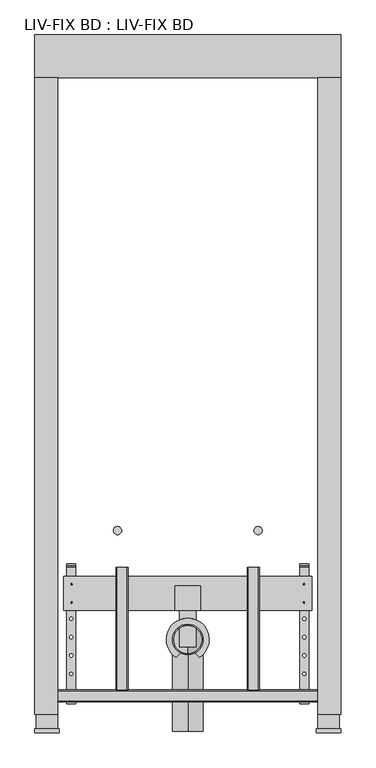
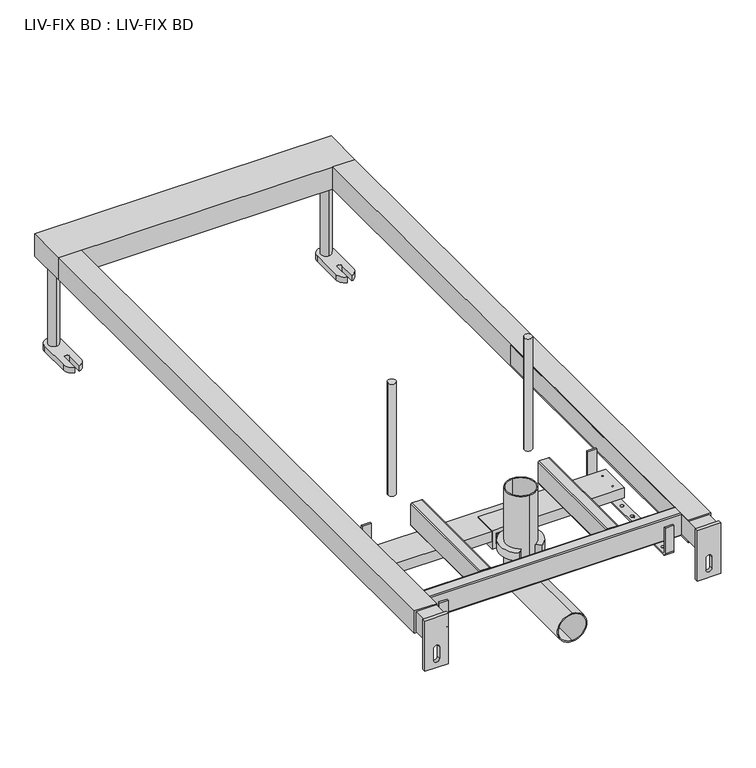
"""IFC4 building model written with IfcOpenShell, lengths in millimetres: flow terminal geometry, LIV-FIX BD : LIV-FIX BD."""

from ifc_helpers import new_model, si_unit, point, frame, frame_2d, origin, origin_with_axes, place, context, project, spatial, polyline, circle_curve, ellipse_curve, trimmed, segment, composite_curve, outline, extrude, source, transform, mapped, element, save
from ifc_brep_helpers import plane_surface, cylinder_surface, revolved_surface, advanced_brep


def liv_fix_bd_liv_fix_bd_2f14a79e(model_context):
    return source(origin(), model_context, "Body", "SolidModel", [
        advanced_brep(
        [(13.5, 139.9999345, 151.25), (-13.5, 139.9999345, 151.25), (-13.5, 139.9999345, 135.25), (13.5, 139.9999345, 135.25), (13.5, 239.9999345, 151.25), (13.5, 239.9999345, 135.25), (-13.5, 239.9999345, 135.25), (-13.5, 239.9999345, 151.25), (13.5, 184.3259317, 151.25), (13.5, 173.0636054, 151.25), (-13.5, 173.0152503, 151.25), (-13.5, 184.3259317, 151.25), (19.3630713, 122.8783068, 166.25), (-19.3630713, 122.8783068, 166.25), (-12.1911763, 130.217614, 166.25), (12.1158534, 130.1337624, 166.25), (19.3630713, 122.8783068, 151.25), (12.1158534, 130.1337624, 151.25), (-12.1911763, 130.217614, 151.25), (-19.3630713, 122.8783068, 151.25)],
        [
            (0, 1),
            (1, 2),
            (2, 3),
            (3, 0),
            (4, 5),
            (5, 6),
            (6, 7),
            (7, 4),
            (3, 5),
            (4, 8),
            (8, 9),
            (9, 0),
            (2, 6),
            (1, 10),
            (10, 11),
            (11, 7),
            (11, 8, circle_curve(frame((0.0, 152.0342919, 151.25), z_axis=(0.0, 0.0, -1.0), x_axis=(1.0, 0.0, 0.0)), 35.0)),
            (9, 10, circle_curve(frame((0.0376615, 152.0104236, 151.25), z_axis=(0.0, 0.0, 1.0), x_axis=(1.0, 0.0, 0.0)), 24.9894182)),
            (12, 13, circle_curve(frame((0.0, 152.0342919, 166.25), z_axis=(0.0, 0.0, 1.0), x_axis=(1.0, 0.0, 0.0)), 35.0)),
            (13, 14),
            (14, 15, circle_curve(frame((0.0376615, 152.0104236, 166.25), z_axis=(0.0, 0.0, -1.0), x_axis=(1.0, 0.0, 0.0)), 24.9894182)),
            (15, 12),
            (16, 17),
            (17, 9, circle_curve(frame((0.0376615, 152.0104236, 151.25), z_axis=(0.0, 0.0, 1.0), x_axis=(1.0, 0.0, 0.0)), 24.9894182)),
            (8, 16, circle_curve(frame((0.0, 152.0342919, 151.25), z_axis=(0.0, 0.0, -1.0), x_axis=(1.0, 0.0, 0.0)), 35.0)),
            (18, 19),
            (19, 11, circle_curve(frame((0.0, 152.0342919, 151.25), z_axis=(0.0, 0.0, -1.0), x_axis=(1.0, 0.0, 0.0)), 35.0)),
            (10, 18, circle_curve(frame((0.0376615, 152.0104236, 151.25), z_axis=(0.0, 0.0, 1.0), x_axis=(1.0, 0.0, 0.0)), 24.9894182)),
            (12, 16),
            (19, 13),
            (18, 14),
            (17, 15),
        ],
        [
            plane_surface(frame((13.5, 139.9999345, 151.25), z_axis=(0.0, -1.0, 0.0), x_axis=(0.0, 0.0, 1.0))),
            plane_surface(frame((13.5, 239.9999345, 151.25), z_axis=(0.0, 1.0, 0.0), x_axis=(0.0, 0.0, -1.0))),
            plane_surface(frame((13.5, 239.9999345, 151.25), z_axis=(1.0, 0.0, 0.0), x_axis=(0.0, -1.0, 0.0))),
            plane_surface(frame((13.5, 239.9999345, 135.25), z_axis=(0.0, 0.0, -1.0), x_axis=(0.0, -1.0, 0.0))),
            plane_surface(frame((-13.5, 239.9999345, 135.25), z_axis=(-1.0, 0.0, 0.0), x_axis=(0.0, -1.0, 0.0))),
            plane_surface(frame((-13.5, 239.9999345, 151.25), z_axis=(0.0, 0.0, 1.0), x_axis=(0.0, -1.0, 0.0))),
            plane_surface(frame((35.0, 152.0342919, 166.25), z_axis=(0.0, 0.0, 1.0), x_axis=(0.0, 1.0, 0.0))),
            plane_surface(frame((35.0, 152.0342919, 151.25), z_axis=(0.0, 0.0, -1.0), x_axis=(0.0, -1.0, 0.0))),
            cylinder_surface(frame((0.0, 152.0342919, 151.25), z_axis=(0.0, 0.0, 1.0), x_axis=(1.0, 0.0, 0.0)), 35.0),
            plane_surface(frame((-19.3630713, 122.8783068, 166.25), z_axis=(0.7152169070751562, -0.6989025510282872, 0.0), x_axis=(0.0, 0.0, -1.0))),
            revolved_surface(polyline([(25.027079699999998, 152.0104236, 151.25), (25.027079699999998, 152.0104236, 166.25)]), (0.0376615, 152.0104236, 151.25), (0.0, 0.0, -1.0)),
            plane_surface(frame((12.1158534, 130.1337624, 166.25), z_axis=(-0.707508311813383, -0.7067050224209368, 0.0), x_axis=(0.0, 0.0, -1.0))),
        ],
        [
            (0, [[1, 2, 3, 4]]),
            (1, [[5, 6, 7, 8]]),
            (2, [[-4, 9, -5, 10, 11, 12]]),
            (3, [[-3, 13, -6, -9]]),
            (4, [[-2, 14, 15, 16, -7, -13]]),
            (5, [[-8, -16, 17, -10]]),
            (5, [[-1, -12, 18, -14]]),
            (6, [[19, 20, 21, 22]]),
            (7, [[23, 24, -11, 25]]),
            (7, [[26, 27, -15, 28]]),
            (8, [[-19, 29, -25, -17, -27, 30]]),
            (9, [[-20, -30, -26, 31]]),
            (10, [[-21, -31, -28, -18, -24, 32]]),
            (11, [[-22, -32, -23, -29]]),
        ],
    ),
        advanced_brep(
        [(0.0, 2.0, 125.0), (0.0, 2.0, 75.0), (0.0, 2.0, 123.0), (0.0, 2.0, 77.0), (0.0, 127.0, 125.0), (0.0, 177.0, 75.0), (0.0, 129.0, 123.0), (0.0, 175.0, 77.0), (0.0, 127.0, 260.0), (0.0, 177.0, 260.0), (0.0, 129.0, 260.0), (0.0, 175.0, 260.0)],
        [
            (0, 1, circle_curve(frame((0.0, 2.0, 100.0), z_axis=(0.0, -1.0, 0.0), x_axis=(0.0, 0.0, -1.0)), 25.0)),
            (1, 0, circle_curve(frame((0.0, 2.0, 100.0), z_axis=(0.0, -1.0, 0.0), x_axis=(0.0, 0.0, -1.0)), 25.0)),
            (2, 3, circle_curve(frame((0.0, 2.0, 100.0), z_axis=(0.0, 1.0, 0.0), x_axis=(0.0, 0.0, -1.0)), 23.0)),
            (3, 2, circle_curve(frame((0.0, 2.0, 100.0), z_axis=(0.0, 1.0, 0.0), x_axis=(0.0, 0.0, -1.0)), 23.0)),
            (0, 4),
            (4, 5, ellipse_curve(frame((0.0, 152.0, 100.0), z_axis=(0.0, -0.7071067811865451, -0.7071067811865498), x_axis=(0.0, -0.70710678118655, 0.707106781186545)), 35.3553391, 25.0)),
            (5, 1),
            (5, 4, ellipse_curve(frame((0.0, 152.0, 100.0), z_axis=(0.0, -0.7071067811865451, -0.7071067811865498), x_axis=(0.0, -0.70710678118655, 0.707106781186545)), 35.3553391, 25.0)),
            (2, 6),
            (6, 7, ellipse_curve(frame((0.0, 152.0, 100.0), z_axis=(0.0, 0.7071067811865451, 0.7071067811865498), x_axis=(0.0, 0.70710678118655, -0.707106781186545)), 32.5269119, 23.0)),
            (7, 3),
            (7, 6, ellipse_curve(frame((0.0, 152.0, 100.0), z_axis=(0.0, 0.7071067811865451, 0.7071067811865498), x_axis=(0.0, 0.70710678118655, -0.707106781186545)), 32.5269119, 23.0)),
            (8, 9, circle_curve(frame((0.0, 152.0, 260.0), z_axis=(0.0, 0.0, 1.0), x_axis=(0.0, 1.0, 0.0)), 25.0)),
            (9, 8, circle_curve(frame((0.0, 152.0, 260.0), z_axis=(0.0, 0.0, 1.0), x_axis=(0.0, 1.0, 0.0)), 25.0)),
            (10, 11, circle_curve(frame((0.0, 152.0, 260.0), z_axis=(0.0, 0.0, -1.0), x_axis=(0.0, 1.0, 0.0)), 23.0)),
            (11, 10, circle_curve(frame((0.0, 152.0, 260.0), z_axis=(0.0, 0.0, -1.0), x_axis=(0.0, 1.0, 0.0)), 23.0)),
            (4, 8),
            (9, 5),
            (6, 10),
            (11, 7),
        ],
        [
            plane_surface(frame((0.0, 2.0, 100.0), z_axis=(0.0, -1.0, 0.0), x_axis=(-1.0, 0.0, 0.0))),
            cylinder_surface(frame((0.0, 2.0, 100.0), z_axis=(0.0, -1.0, 0.0), x_axis=(0.0, 0.0, -1.0)), 25.0),
            revolved_surface(polyline([(0.0, 175.0, 77.0), (0.0, 2.0, 77.0)]), (0.0, 2.0, 100.0), (0.0, 1.0, 0.0)),
            plane_surface(frame((0.0, 152.0, 260.0), z_axis=(0.0, 0.0, 1.0), x_axis=(-1.0, 0.0, 0.0))),
            cylinder_surface(frame((0.0, 152.0, 100.0), z_axis=(0.0, 0.0, -1.0), x_axis=(0.0, 1.0, 0.0)), 25.0),
            revolved_surface(polyline([(0.0, 175.0, 260.0), (0.0, 175.0, 77.0)]), (0.0, 152.0, 100.0), (0.0, 0.0, 1.0)),
        ],
        [
            (0, [[1, 2], [3, 4]]),
            (1, [[-1, 5, 6, 7]]),
            (1, [[-2, -7, 8, -5]]),
            (2, [[-3, 9, 10, 11]]),
            (2, [[-4, -11, 12, -9]]),
            (3, [[13, 14], [15, 16]]),
            (4, [[-6, 17, -14, 18]]),
            (4, [[-8, -18, -13, -17]]),
            (5, [[-10, 19, -16, 20]]),
            (5, [[-12, -20, -15, -19]]),
        ],
    ),
        extrude(outline(polyline([(160.0, -20.75), (126.5, -20.75), (126.5, 20.75), (160.0, 20.75), (160.0, -20.75)]), holes=[polyline([(152.5, -13.75), (152.5, 13.75), (134.0, 13.75), (134.0, -13.75), (152.5, -13.75)])]), frame((0.0, 199.9999345, 0.0), z_axis=(0.0, 1.0, 0.0), x_axis=(0.0, 0.0, 1.0)), (0.0, 0.0, 1.0), 40.0),
        extrude(outline(composite_curve([segment(trimmed(circle_curve(frame_2d((115.0, 330.0)), 6.65), [point((121.65, 330.0))], [point((108.35, 330.0))], False, "CARTESIAN"), True, "CONTINUOUS"), segment(trimmed(circle_curve(frame_2d((115.0, 330.0)), 6.65), [point((108.35, 330.0))], [point((121.65, 330.0))], False, "CARTESIAN"), True, "CONTINUOUS")], self_intersect=False)), frame((0.0, 0.0, 180.0), z_axis=(0.0, 0.0, 1.0), x_axis=(1.0, 0.0, 0.0)), (0.0, 0.0, 1.0), 200.0),
        extrude(outline(composite_curve([segment(trimmed(circle_curve(frame_2d((-115.0, 330.0)), 6.65), [point((-108.35, 330.0))], [point((-121.65, 330.0))], False, "CARTESIAN"), True, "CONTINUOUS"), segment(trimmed(circle_curve(frame_2d((-115.0, 330.0)), 6.65), [point((-121.65, 330.0))], [point((-108.35, 330.0))], False, "CARTESIAN"), True, "CONTINUOUS")], self_intersect=False)), frame((0.0, 0.0, 180.0), z_axis=(0.0, 0.0, 1.0), x_axis=(1.0, 0.0, 0.0)), (0.0, 0.0, 1.0), 200.0),
        extrude(outline(composite_curve([segment(trimmed(circle_curve(frame_2d((-230.0, 1120.0)), 8.75), [point((-230.0, 1111.25))], [point((-230.0, 1128.75))], False, "CARTESIAN"), True, "CONTINUOUS"), segment(trimmed(circle_curve(frame_2d((-230.0, 1120.0)), 8.75), [point((-230.0, 1128.75))], [point((-230.0, 1111.25))], False, "CARTESIAN"), True, "CONTINUOUS")], self_intersect=False)), frame((0.0, 0.0, 10.0), z_axis=(0.0, 0.0, 1.0), x_axis=(1.0, 0.0, 0.0)), (0.0, 0.0, 1.0), 150.0),
        extrude(outline(composite_curve([segment(trimmed(circle_curve(frame_2d((230.0, 1120.0)), 8.75), [point((230.0, 1111.25))], [point((230.0, 1128.75))], False, "CARTESIAN"), True, "CONTINUOUS"), segment(trimmed(circle_curve(frame_2d((230.0, 1120.0)), 8.75), [point((230.0, 1128.75))], [point((230.0, 1111.25))], False, "CARTESIAN"), True, "CONTINUOUS")], self_intersect=False)), frame((0.0, 0.0, 10.0), z_axis=(0.0, 0.0, 1.0), x_axis=(1.0, 0.0, 0.0)), (0.0, 0.0, 1.0), 150.0),
        extrude(outline(composite_curve([segment(trimmed(circle_curve(frame_2d((-230.0, 1120.0)), 15.0), [point((-245.0, 1120.0))], [point((-215.0, 1120.0))], False, "CARTESIAN"), True, "CONTINUOUS"), segment(polyline([(-215.0, 1120.0), (-215.0, 1066.0)]), True, "CONTINUOUS"), segment(trimmed(circle_curve(frame_2d((-230.0, 1066.0)), 15.0), [point((-215.0, 1066.0))], [point((-226.0, 1051.5431677))], False, "CARTESIAN"), True, "CONTINUOUS"), segment(polyline([(-226.0, 1051.5431677), (-226.0, 1080.4568323)]), True, "CONTINUOUS"), segment(trimmed(circle_curve(frame_2d((-230.0, 1080.4568323)), 4.0), [point((-226.0, 1080.4568323))], [point((-234.0, 1080.4568323))], True, "CARTESIAN"), True, "CONTINUOUS"), segment(polyline([(-234.0, 1080.4568323), (-234.0, 1051.5431677)]), True, "CONTINUOUS"), segment(trimmed(circle_curve(frame_2d((-230.0, 1066.0)), 15.0), [point((-234.0, 1051.5431677))], [point((-245.0, 1066.0))], False, "CARTESIAN"), True, "CONTINUOUS"), segment(polyline([(-245.0, 1066.0), (-245.0, 1120.0)]), True, "CONTINUOUS")], self_intersect=False)), origin_with_axes(), (0.0, 0.0, 1.0), 10.0),
        extrude(outline(composite_curve([segment(polyline([(245.0, 1120.0), (245.0, 1066.0)]), True, "CONTINUOUS"), segment(trimmed(circle_curve(frame_2d((230.0, 1066.0)), 15.0), [point((245.0, 1066.0))], [point((234.0, 1051.5431677))], False, "CARTESIAN"), True, "CONTINUOUS"), segment(polyline([(234.0, 1051.5431677), (234.0, 1080.4568323)]), True, "CONTINUOUS"), segment(trimmed(circle_curve(frame_2d((230.0, 1080.4568323)), 4.0), [point((234.0, 1080.4568323))], [point((226.0, 1080.4568323))], True, "CARTESIAN"), True, "CONTINUOUS"), segment(polyline([(226.0, 1080.4568323), (226.0, 1051.5431677)]), True, "CONTINUOUS"), segment(trimmed(circle_curve(frame_2d((230.0, 1066.0)), 15.0), [point((226.0, 1051.5431677))], [point((215.0, 1066.0))], False, "CARTESIAN"), True, "CONTINUOUS"), segment(polyline([(215.0, 1066.0), (215.0, 1120.0)]), True, "CONTINUOUS"), segment(trimmed(circle_curve(frame_2d((230.0, 1120.0)), 15.0), [point((215.0, 1120.0))], [point((245.0, 1120.0))], False, "CARTESIAN"), True, "CONTINUOUS")], self_intersect=False)), origin_with_axes(), (0.0, 0.0, 1.0), 10.0),
        extrude(outline(polyline([(-247.5, 549.0), (-212.5, 549.0), (-212.5, 6.0), (-247.5, 6.0), (-247.5, 549.0)])), frame((0.0, 0.0, 162.5), z_axis=(0.0, 0.0, 1.0), x_axis=(1.0, 0.0, 0.0)), (0.0, 0.0, 1.0), 35.0),
        extrude(outline(polyline([(212.4841074, 549.0), (247.4841074, 549.0), (247.4841074, 6.0), (212.4841074, 6.0), (212.4841074, 549.0)])), frame((0.0, 0.0, 162.5), z_axis=(0.0, 0.0, 1.0), x_axis=(1.0, 0.0, 0.0)), (0.0, 0.0, 1.0), 35.0),
        extrude(outline(polyline([(200.0, 250.0), (200.0, 210.0), (110.0, 210.0), (110.0, 250.0), (200.0, 250.0)]), holes=[composite_curve([segment(trimmed(circle_curve(frame_2d((145.0, 230.0)), 5.0), [point((145.0, 225.0))], [point((145.0, 235.0))], True, "CARTESIAN"), True, "CONTINUOUS"), segment(polyline([(145.0, 235.0), (125.0, 235.0)]), True, "CONTINUOUS"), segment(trimmed(circle_curve(frame_2d((125.0, 230.0)), 5.0), [point((125.0, 235.0))], [point((125.0, 225.0))], True, "CARTESIAN"), True, "CONTINUOUS"), segment(polyline([(125.0, 225.0), (145.0, 225.0)]), True, "CONTINUOUS")], self_intersect=False)]), frame((0.0, 0.0, 0.0), z_axis=(0.0, 1.0, 0.0), x_axis=(0.0, 0.0, 1.0)), (0.0, 0.0, 1.0), 6.0),
        extrude(outline(polyline([(200.0, -210.0), (200.0, -250.0), (110.0, -250.0), (110.0, -210.0), (200.0, -210.0)]), holes=[composite_curve([segment(trimmed(circle_curve(frame_2d((145.0, -230.0)), 5.0), [point((145.0, -235.0))], [point((145.0, -225.0))], True, "CARTESIAN"), True, "CONTINUOUS"), segment(polyline([(145.0, -225.0), (125.0, -225.0)]), True, "CONTINUOUS"), segment(trimmed(circle_curve(frame_2d((125.0, -230.0)), 5.0), [point((125.0, -225.0))], [point((125.0, -235.0))], True, "CARTESIAN"), True, "CONTINUOUS"), segment(polyline([(125.0, -235.0), (145.0, -235.0)]), True, "CONTINUOUS")], self_intersect=False)]), frame((0.0, 0.0, 0.0), z_axis=(0.0, 1.0, 0.0), x_axis=(0.0, 0.0, 1.0)), (0.0, 0.0, 1.0), 6.0),
        extrude(outline(polyline([(-212.5, 30.0000173), (-250.0, 30.0000173), (-250.0, 1070.0000173), (-212.5, 1070.0000173), (-212.5, 30.0000173)])), frame((0.0, 0.0, 160.0), z_axis=(0.0, 0.0, 1.0), x_axis=(1.0, 0.0, 0.0)), (0.0, 0.0, 1.0), 40.0),
        extrude(outline(polyline([(250.0, 30.0000173), (212.4841074, 30.0000173), (212.4841074, 1070.0000173), (250.0, 1070.0000173), (250.0, 30.0000173)])), frame((0.0, 0.0, 160.0), z_axis=(0.0, 0.0, 1.0), x_axis=(1.0, 0.0, 0.0)), (0.0, 0.0, 1.0), 40.0),
        extrude(outline(polyline([(250.0, 1140.0), (250.0, 1070.0000173), (-250.0, 1070.0000173), (-250.0, 1140.0), (250.0, 1140.0)])), frame((0.0, 0.0, 160.0), z_axis=(0.0, 0.0, 1.0), x_axis=(1.0, 0.0, 0.0)), (0.0, 0.0, 1.0), 40.0),
        advanced_brep(
        [(187.7485577, 126.0000306, 135.5000011), (187.7485577, 126.0000306, 138.4999997), (193.2514423, 126.0000306, 138.4999997), (193.2514423, 126.0000306, 135.5000011), (187.7485577, 155.9985832, 135.5000011), (187.7485577, 155.9985832, 138.4999997), (193.2514423, 155.9985832, 138.4999997), (193.2514423, 155.9985832, 135.5000011), (187.7485577, 185.9985871, 135.5000011), (187.7485577, 185.9985871, 138.4999997), (193.2514423, 185.9985871, 138.4999997), (193.2514423, 185.9985871, 135.5000011), (187.7485577, 95.9985755, 135.5000011), (187.7485577, 95.9985755, 138.4999997), (193.2514423, 95.9985755, 138.4999997), (193.2514423, 95.9985755, 135.5000011), (187.7485577, 65.9971204, 135.5000011), (187.7485577, 65.9971204, 138.4999997), (193.2514423, 65.9971204, 138.4999997), (193.2514423, 65.9971204, 135.5000011), (187.7485577, 215.9971397, 135.5000011), (187.7485577, 215.9971397, 138.4999997), (193.2514423, 215.9971397, 138.4999997), (193.2514423, 215.9971397, 135.5000011), (187.7485577, 245.9971436, 135.5000011), (187.7485577, 245.9971436, 138.4999997), (193.2514423, 245.9971436, 138.4999997), (193.2514423, 245.9971436, 135.5000011), (197.9999964, 51.5000313, 135.5000011), (197.9999964, 271.5000197, 135.5000011), (197.9999964, 276.0000175, 139.9999989), (197.9999964, 276.0000175, 185.5000003), (197.9999964, 273.000019, 185.5000003), (197.9999964, 273.000019, 140.9999924), (197.9999964, 270.5000262, 138.4999997), (197.9999964, 52.5000247, 138.4999997), (197.9999964, 50.000032, 140.9999924), (197.9999964, 50.000032, 185.5000003), (197.9999964, 47.0000334, 185.5000003), (197.9999964, 47.0000334, 139.9999989), (183.0000036, 51.5000313, 135.5000011), (183.0000036, 271.5000197, 135.5000011), (183.0000036, 276.0000175, 139.9999989), (183.0000036, 276.0000175, 185.5000003), (183.0000036, 273.000019, 185.5000003), (183.0000036, 273.000019, 140.9999924), (183.0000036, 270.5000262, 138.4999997), (183.0000036, 52.5000247, 138.4999997), (183.0000036, 50.000032, 140.9999924), (183.0000036, 50.000032, 185.5000003), (183.0000036, 47.0000334, 185.5000003), (183.0000036, 47.0000334, 139.9999989)],
        [
            (0, 1),
            (1, 2, circle_curve(frame((190.5, 126.0000306, 138.4999997), z_axis=(0.0, 0.0, 1.0), x_axis=(1.0, 0.0, 0.0)), 2.7514423)),
            (2, 3),
            (3, 0, circle_curve(frame((190.5, 126.0000306, 135.5000011), z_axis=(0.0, 0.0, -1.0), x_axis=(1.0, 0.0, 0.0)), 2.7514423)),
            (0, 3, circle_curve(frame((190.5, 126.0000306, 135.5000011), z_axis=(0.0, 0.0, -1.0), x_axis=(1.0, 0.0, 0.0)), 2.7514423)),
            (2, 1, circle_curve(frame((190.5, 126.0000306, 138.4999997), z_axis=(0.0, 0.0, 1.0), x_axis=(1.0, 0.0, 0.0)), 2.7514423)),
            (4, 5),
            (5, 6, circle_curve(frame((190.5, 155.9985832, 138.4999997), z_axis=(0.0, 0.0, 1.0), x_axis=(1.0, 0.0, 0.0)), 2.7514423)),
            (6, 7),
            (7, 4, circle_curve(frame((190.5, 155.9985832, 135.5000011), z_axis=(0.0, 0.0, -1.0), x_axis=(1.0, 0.0, 0.0)), 2.7514423)),
            (4, 7, circle_curve(frame((190.5, 155.9985832, 135.5000011), z_axis=(0.0, 0.0, -1.0), x_axis=(1.0, 0.0, 0.0)), 2.7514423)),
            (6, 5, circle_curve(frame((190.5, 155.9985832, 138.4999997), z_axis=(0.0, 0.0, 1.0), x_axis=(1.0, 0.0, 0.0)), 2.7514423)),
            (8, 9),
            (9, 10, circle_curve(frame((190.5, 185.9985871, 138.4999997), z_axis=(0.0, 0.0, 1.0), x_axis=(1.0, 0.0, 0.0)), 2.7514423)),
            (10, 11),
            (11, 8, circle_curve(frame((190.5, 185.9985871, 135.5000011), z_axis=(0.0, 0.0, -1.0), x_axis=(1.0, 0.0, 0.0)), 2.7514423)),
            (8, 11, circle_curve(frame((190.5, 185.9985871, 135.5000011), z_axis=(0.0, 0.0, -1.0), x_axis=(1.0, 0.0, 0.0)), 2.7514423)),
            (10, 9, circle_curve(frame((190.5, 185.9985871, 138.4999997), z_axis=(0.0, 0.0, 1.0), x_axis=(1.0, 0.0, 0.0)), 2.7514423)),
            (12, 13),
            (13, 14, circle_curve(frame((190.5, 95.9985755, 138.4999997), z_axis=(0.0, 0.0, 1.0), x_axis=(1.0, 0.0, 0.0)), 2.7514423)),
            (14, 15),
            (15, 12, circle_curve(frame((190.5, 95.9985755, 135.5000011), z_axis=(0.0, 0.0, -1.0), x_axis=(1.0, 0.0, 0.0)), 2.7514423)),
            (12, 15, circle_curve(frame((190.5, 95.9985755, 135.5000011), z_axis=(0.0, 0.0, -1.0), x_axis=(1.0, 0.0, 0.0)), 2.7514423)),
            (14, 13, circle_curve(frame((190.5, 95.9985755, 138.4999997), z_axis=(0.0, 0.0, 1.0), x_axis=(1.0, 0.0, 0.0)), 2.7514423)),
            (16, 17),
            (17, 18, circle_curve(frame((190.5, 65.9971204, 138.4999997), z_axis=(0.0, 0.0, 1.0), x_axis=(1.0, 0.0, 0.0)), 2.7514423)),
            (18, 19),
            (19, 16, circle_curve(frame((190.5, 65.9971204, 135.5000011), z_axis=(0.0, 0.0, -1.0), x_axis=(1.0, 0.0, 0.0)), 2.7514423)),
            (16, 19, circle_curve(frame((190.5, 65.9971204, 135.5000011), z_axis=(0.0, 0.0, -1.0), x_axis=(1.0, 0.0, 0.0)), 2.7514423)),
            (18, 17, circle_curve(frame((190.5, 65.9971204, 138.4999997), z_axis=(0.0, 0.0, 1.0), x_axis=(1.0, 0.0, 0.0)), 2.7514423)),
            (20, 21),
            (21, 22, circle_curve(frame((190.5, 215.9971397, 138.4999997), z_axis=(0.0, 0.0, 1.0), x_axis=(1.0, 0.0, 0.0)), 2.7514423)),
            (22, 23),
            (23, 20, circle_curve(frame((190.5, 215.9971397, 135.5000011), z_axis=(0.0, 0.0, -1.0), x_axis=(1.0, 0.0, 0.0)), 2.7514423)),
            (20, 23, circle_curve(frame((190.5, 215.9971397, 135.5000011), z_axis=(0.0, 0.0, -1.0), x_axis=(1.0, 0.0, 0.0)), 2.7514423)),
            (22, 21, circle_curve(frame((190.5, 215.9971397, 138.4999997), z_axis=(0.0, 0.0, 1.0), x_axis=(1.0, 0.0, 0.0)), 2.7514423)),
            (24, 25),
            (25, 26, circle_curve(frame((190.5, 245.9971436, 138.4999997), z_axis=(0.0, 0.0, 1.0), x_axis=(1.0, 0.0, 0.0)), 2.7514423)),
            (26, 27),
            (27, 24, circle_curve(frame((190.5, 245.9971436, 135.5000011), z_axis=(0.0, 0.0, -1.0), x_axis=(1.0, 0.0, 0.0)), 2.7514423)),
            (24, 27, circle_curve(frame((190.5, 245.9971436, 135.5000011), z_axis=(0.0, 0.0, -1.0), x_axis=(1.0, 0.0, 0.0)), 2.7514423)),
            (26, 25, circle_curve(frame((190.5, 245.9971436, 138.4999997), z_axis=(0.0, 0.0, 1.0), x_axis=(1.0, 0.0, 0.0)), 2.7514423)),
            (28, 29),
            (29, 30, circle_curve(frame((197.9999964, 271.5000197, 139.9999989), z_axis=(1.0, 0.0, 0.0), x_axis=(0.0, 1.0, 0.0)), 4.4999979)),
            (30, 31),
            (31, 32),
            (32, 33),
            (33, 34, circle_curve(frame((197.9999964, 270.5000262, 140.9999924), z_axis=(-1.0, 0.0, 0.0), x_axis=(0.0, 1.0, 0.0)), 2.4999928)),
            (34, 35),
            (35, 36, circle_curve(frame((197.9999964, 52.5000247, 140.9999924), z_axis=(-1.0, 0.0, 0.0), x_axis=(0.0, 1.0, 0.0)), 2.4999928)),
            (36, 37),
            (37, 38),
            (38, 39),
            (39, 28, circle_curve(frame((197.9999964, 51.5000313, 139.9999989), z_axis=(1.0, 0.0, 0.0), x_axis=(0.0, 1.0, 0.0)), 4.4999979)),
            (28, 40),
            (40, 41),
            (41, 29),
            (41, 42, circle_curve(frame((183.0000036, 271.5000197, 139.9999989), z_axis=(1.0, 0.0, 0.0), x_axis=(0.0, 1.0, 0.0)), 4.4999979)),
            (42, 30),
            (42, 43),
            (43, 31),
            (43, 44),
            (44, 32),
            (44, 45),
            (45, 33),
            (45, 46, circle_curve(frame((183.0000036, 270.5000262, 140.9999924), z_axis=(-1.0, 0.0, 0.0), x_axis=(0.0, 1.0, 0.0)), 2.4999928)),
            (46, 34),
            (46, 47),
            (47, 35),
            (47, 48, circle_curve(frame((183.0000036, 52.5000247, 140.9999924), z_axis=(-1.0, 0.0, 0.0), x_axis=(0.0, 1.0, 0.0)), 2.4999928)),
            (48, 36),
            (48, 49),
            (49, 37),
            (49, 50),
            (50, 38),
            (50, 51),
            (51, 39),
            (51, 40, circle_curve(frame((183.0000036, 51.5000313, 139.9999989), z_axis=(1.0, 0.0, 0.0), x_axis=(0.0, 1.0, 0.0)), 4.4999979)),
        ],
        [
            revolved_surface(polyline([(193.2514423, 126.0000306, 138.4999997), (193.2514423, 126.0000306, 135.5000011)]), (190.5, 126.0000306, 135.5000011), (0.0, 0.0, 1.0)),
            revolved_surface(polyline([(193.2514423, 155.9985832, 138.4999997), (193.2514423, 155.9985832, 135.5000011)]), (190.5, 155.9985832, 0.0), (0.0, 0.0, 1.0)),
            revolved_surface(polyline([(193.2514423, 185.9985871, 138.4999997), (193.2514423, 185.9985871, 135.5000011)]), (190.5, 185.9985871, 0.0), (0.0, 0.0, 1.0)),
            revolved_surface(polyline([(193.2514423, 95.9985755, 138.4999997), (193.2514423, 95.9985755, 135.5000011)]), (190.5, 95.9985755, 0.0), (0.0, 0.0, 1.0)),
            revolved_surface(polyline([(193.2514423, 65.9971204, 138.4999997), (193.2514423, 65.9971204, 135.5000011)]), (190.5, 65.9971204, 0.0), (0.0, 0.0, 1.0)),
            revolved_surface(polyline([(193.2514423, 215.9971397, 138.4999997), (193.2514423, 215.9971397, 135.5000011)]), (190.5, 215.9971397, 0.0), (0.0, 0.0, 1.0)),
            revolved_surface(polyline([(193.2514423, 245.9971436, 138.4999997), (193.2514423, 245.9971436, 135.5000011)]), (190.5, 245.9971436, 0.0), (0.0, 0.0, 1.0)),
            plane_surface(frame((197.9999964, 271.5000197, 135.5000011), z_axis=(1.0, 0.0, 0.0), x_axis=(0.0, 1.0, 0.0))),
            plane_surface(frame((197.9999964, 51.5000313, 135.5000011), z_axis=(0.0, 0.0, -1.0), x_axis=(-1.0, 0.0, 0.0))),
            cylinder_surface(frame((-197.9999964, 271.5000197, 139.9999989), z_axis=(1.0, 0.0, 0.0), x_axis=(0.0, 1.0, 0.0)), 4.4999979),
            plane_surface(frame((197.9999964, 276.0000175, 139.9999989), z_axis=(0.0, 1.0, 0.0), x_axis=(-1.0, 0.0, 0.0))),
            plane_surface(frame((197.9999964, 276.0000175, 185.5000003), z_axis=(0.0, 0.0, 1.0), x_axis=(-1.0, 0.0, 0.0))),
            plane_surface(frame((197.9999964, 273.000019, 185.5000003), z_axis=(0.0, -1.0, 0.0), x_axis=(-1.0, 0.0, 0.0))),
            revolved_surface(polyline([(183.0000036, 273.00001899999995, 140.9999924), (197.9999964, 273.00001899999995, 140.9999924)]), (-197.9999964, 270.5000262, 140.9999924), (-1.0, 0.0, 0.0)),
            plane_surface(frame((197.9999964, 270.5000262, 138.4999997), z_axis=(0.0, 0.0, 1.0), x_axis=(-1.0, 0.0, 0.0))),
            revolved_surface(polyline([(183.0000036, 55.0000175, 140.9999924), (197.9999964, 55.0000175, 140.9999924)]), (-197.9999964, 52.5000247, 140.9999924), (-1.0, 0.0, 0.0)),
            plane_surface(frame((197.9999964, 50.000032, 140.9999924), z_axis=(0.0, 1.0, 0.0), x_axis=(-1.0, 0.0, 0.0))),
            plane_surface(frame((197.9999964, 50.000032, 185.5000003), z_axis=(0.0, 0.0, 1.0), x_axis=(-1.0, 0.0, 0.0))),
            plane_surface(frame((197.9999964, 47.0000334, 185.5000003), z_axis=(0.0, -1.0, 0.0), x_axis=(-1.0, 0.0, 0.0))),
            cylinder_surface(frame((-197.9999964, 51.5000313, 139.9999989), z_axis=(1.0, 0.0, 0.0), x_axis=(0.0, 1.0, 0.0)), 4.4999979),
            plane_surface(frame((183.0000036, 10.000032, 275.5639354), z_axis=(-1.0, 0.0, 0.0), x_axis=(0.0, 0.0, -1.0))),
        ],
        [
            (0, [[1, 2, 3, 4]]),
            (0, [[-1, 5, -3, 6]]),
            (1, [[7, 8, 9, 10]]),
            (1, [[-7, 11, -9, 12]]),
            (2, [[13, 14, 15, 16]]),
            (2, [[-13, 17, -15, 18]]),
            (3, [[19, 20, 21, 22]]),
            (3, [[-19, 23, -21, 24]]),
            (4, [[25, 26, 27, 28]]),
            (4, [[-25, 29, -27, 30]]),
            (5, [[31, 32, 33, 34]]),
            (5, [[-31, 35, -33, 36]]),
            (6, [[37, 38, 39, 40]]),
            (6, [[-37, 41, -39, 42]]),
            (7, [[43, 44, 45, 46, 47, 48, 49, 50, 51, 52, 53, 54]]),
            (8, [[-43, 55, 56, 57], [-4, -5], [-10, -11], [-16, -17], [-22, -23], [-28, -29], [-34, -35], [-40, -41]]),
            (9, [[-44, -57, 58, 59]]),
            (10, [[-45, -59, 60, 61]]),
            (11, [[-46, -61, 62, 63]]),
            (12, [[-47, -63, 64, 65]]),
            (13, [[-48, -65, 66, 67]]),
            (14, [[-49, -67, 68, 69], [-2, -6], [-8, -12], [-14, -18], [-20, -24], [-26, -30], [-32, -36], [-38, -42]]),
            (15, [[-50, -69, 70, 71]]),
            (16, [[-51, -71, 72, 73]]),
            (17, [[-52, -73, 74, 75]]),
            (18, [[-53, -75, 76, 77]]),
            (19, [[-54, -77, 78, -55]]),
            (20, [[-56, -78, -76, -74, -72, -70, -68, -66, -64, -62, -60, -58]]),
        ],
    ),
        advanced_brep(
        [(-193.2514423, 126.0000306, 135.5000011), (-193.2514423, 126.0000306, 138.4999997), (-187.7485577, 126.0000306, 138.4999997), (-187.7485577, 126.0000306, 135.5000011), (-193.2514423, 155.9985832, 135.5000011), (-193.2514423, 155.9985832, 138.4999997), (-187.7485577, 155.9985832, 138.4999997), (-187.7485577, 155.9985832, 135.5000011), (-193.2514423, 185.9985871, 135.5000011), (-193.2514423, 185.9985871, 138.4999997), (-187.7485577, 185.9985871, 138.4999997), (-187.7485577, 185.9985871, 135.5000011), (-193.2514423, 95.9985755, 135.5000011), (-193.2514423, 95.9985755, 138.4999997), (-187.7485577, 95.9985755, 138.4999997), (-187.7485577, 95.9985755, 135.5000011), (-193.2514423, 65.9971204, 135.5000011), (-193.2514423, 65.9971204, 138.4999997), (-187.7485577, 65.9971204, 138.4999997), (-187.7485577, 65.9971204, 135.5000011), (-193.2514423, 215.9971397, 135.5000011), (-193.2514423, 215.9971397, 138.4999997), (-187.7485577, 215.9971397, 138.4999997), (-187.7485577, 215.9971397, 135.5000011), (-193.2514423, 245.9971436, 135.5000011), (-193.2514423, 245.9971436, 138.4999997), (-187.7485577, 245.9971436, 138.4999997), (-187.7485577, 245.9971436, 135.5000011), (-197.9999964, 51.5000313, 135.5000011), (-197.9999964, 47.0000334, 139.9999989), (-197.9999964, 47.0000334, 185.5000003), (-197.9999964, 50.000032, 185.5000003), (-197.9999964, 50.000032, 140.9999924), (-197.9999964, 52.5000247, 138.4999997), (-197.9999964, 270.5000262, 138.4999997), (-197.9999964, 273.000019, 140.9999924), (-197.9999964, 273.000019, 185.5000003), (-197.9999964, 276.0000175, 185.5000003), (-197.9999964, 276.0000175, 139.9999989), (-197.9999964, 271.5000197, 135.5000011), (-183.0000036, 271.5000197, 135.5000011), (-183.0000036, 51.5000313, 135.5000011), (-183.0000036, 276.0000175, 139.9999989), (-183.0000036, 276.0000175, 185.5000003), (-183.0000036, 273.000019, 185.5000003), (-183.0000036, 273.000019, 140.9999924), (-183.0000036, 270.5000262, 138.4999997), (-183.0000036, 52.5000247, 138.4999997), (-183.0000036, 50.000032, 140.9999924), (-183.0000036, 50.000032, 185.5000003), (-183.0000036, 47.0000334, 185.5000003), (-183.0000036, 47.0000334, 139.9999989)],
        [
            (0, 1),
            (1, 2, circle_curve(frame((-190.5, 126.0000306, 138.4999997), z_axis=(0.0, 0.0, 1.0), x_axis=(1.0, 0.0, 0.0)), 2.7514423)),
            (2, 3),
            (3, 0, circle_curve(frame((-190.5, 126.0000306, 135.5000011), z_axis=(0.0, 0.0, -1.0), x_axis=(1.0, 0.0, 0.0)), 2.7514423)),
            (0, 3, circle_curve(frame((-190.5, 126.0000306, 135.5000011), z_axis=(0.0, 0.0, -1.0), x_axis=(1.0, 0.0, 0.0)), 2.7514423)),
            (2, 1, circle_curve(frame((-190.5, 126.0000306, 138.4999997), z_axis=(0.0, 0.0, 1.0), x_axis=(1.0, 0.0, 0.0)), 2.7514423)),
            (4, 5),
            (5, 6, circle_curve(frame((-190.5, 155.9985832, 138.4999997), z_axis=(0.0, 0.0, 1.0), x_axis=(1.0, 0.0, 0.0)), 2.7514423)),
            (6, 7),
            (7, 4, circle_curve(frame((-190.5, 155.9985832, 135.5000011), z_axis=(0.0, 0.0, -1.0), x_axis=(1.0, 0.0, 0.0)), 2.7514423)),
            (4, 7, circle_curve(frame((-190.5, 155.9985832, 135.5000011), z_axis=(0.0, 0.0, -1.0), x_axis=(1.0, 0.0, 0.0)), 2.7514423)),
            (6, 5, circle_curve(frame((-190.5, 155.9985832, 138.4999997), z_axis=(0.0, 0.0, 1.0), x_axis=(1.0, 0.0, 0.0)), 2.7514423)),
            (8, 9),
            (9, 10, circle_curve(frame((-190.5, 185.9985871, 138.4999997), z_axis=(0.0, 0.0, 1.0), x_axis=(1.0, 0.0, 0.0)), 2.7514423)),
            (10, 11),
            (11, 8, circle_curve(frame((-190.5, 185.9985871, 135.5000011), z_axis=(0.0, 0.0, -1.0), x_axis=(1.0, 0.0, 0.0)), 2.7514423)),
            (8, 11, circle_curve(frame((-190.5, 185.9985871, 135.5000011), z_axis=(0.0, 0.0, -1.0), x_axis=(1.0, 0.0, 0.0)), 2.7514423)),
            (10, 9, circle_curve(frame((-190.5, 185.9985871, 138.4999997), z_axis=(0.0, 0.0, 1.0), x_axis=(1.0, 0.0, 0.0)), 2.7514423)),
            (12, 13),
            (13, 14, circle_curve(frame((-190.5, 95.9985755, 138.4999997), z_axis=(0.0, 0.0, 1.0), x_axis=(1.0, 0.0, 0.0)), 2.7514423)),
            (14, 15),
            (15, 12, circle_curve(frame((-190.5, 95.9985755, 135.5000011), z_axis=(0.0, 0.0, -1.0), x_axis=(1.0, 0.0, 0.0)), 2.7514423)),
            (12, 15, circle_curve(frame((-190.5, 95.9985755, 135.5000011), z_axis=(0.0, 0.0, -1.0), x_axis=(1.0, 0.0, 0.0)), 2.7514423)),
            (14, 13, circle_curve(frame((-190.5, 95.9985755, 138.4999997), z_axis=(0.0, 0.0, 1.0), x_axis=(1.0, 0.0, 0.0)), 2.7514423)),
            (16, 17),
            (17, 18, circle_curve(frame((-190.5, 65.9971204, 138.4999997), z_axis=(0.0, 0.0, 1.0), x_axis=(1.0, 0.0, 0.0)), 2.7514423)),
            (18, 19),
            (19, 16, circle_curve(frame((-190.5, 65.9971204, 135.5000011), z_axis=(0.0, 0.0, -1.0), x_axis=(1.0, 0.0, 0.0)), 2.7514423)),
            (16, 19, circle_curve(frame((-190.5, 65.9971204, 135.5000011), z_axis=(0.0, 0.0, -1.0), x_axis=(1.0, 0.0, 0.0)), 2.7514423)),
            (18, 17, circle_curve(frame((-190.5, 65.9971204, 138.4999997), z_axis=(0.0, 0.0, 1.0), x_axis=(1.0, 0.0, 0.0)), 2.7514423)),
            (20, 21),
            (21, 22, circle_curve(frame((-190.5, 215.9971397, 138.4999997), z_axis=(0.0, 0.0, 1.0), x_axis=(1.0, 0.0, 0.0)), 2.7514423)),
            (22, 23),
            (23, 20, circle_curve(frame((-190.5, 215.9971397, 135.5000011), z_axis=(0.0, 0.0, -1.0), x_axis=(1.0, 0.0, 0.0)), 2.7514423)),
            (20, 23, circle_curve(frame((-190.5, 215.9971397, 135.5000011), z_axis=(0.0, 0.0, -1.0), x_axis=(1.0, 0.0, 0.0)), 2.7514423)),
            (22, 21, circle_curve(frame((-190.5, 215.9971397, 138.4999997), z_axis=(0.0, 0.0, 1.0), x_axis=(1.0, 0.0, 0.0)), 2.7514423)),
            (24, 25),
            (25, 26, circle_curve(frame((-190.5, 245.9971436, 138.4999997), z_axis=(0.0, 0.0, 1.0), x_axis=(1.0, 0.0, 0.0)), 2.7514423)),
            (26, 27),
            (27, 24, circle_curve(frame((-190.5, 245.9971436, 135.5000011), z_axis=(0.0, 0.0, -1.0), x_axis=(1.0, 0.0, 0.0)), 2.7514423)),
            (24, 27, circle_curve(frame((-190.5, 245.9971436, 135.5000011), z_axis=(0.0, 0.0, -1.0), x_axis=(1.0, 0.0, 0.0)), 2.7514423)),
            (26, 25, circle_curve(frame((-190.5, 245.9971436, 138.4999997), z_axis=(0.0, 0.0, 1.0), x_axis=(1.0, 0.0, 0.0)), 2.7514423)),
            (28, 29, circle_curve(frame((-197.9999964, 51.5000313, 139.9999989), z_axis=(-1.0, 0.0, 0.0), x_axis=(0.0, 1.0, 0.0)), 4.4999979)),
            (29, 30),
            (30, 31),
            (31, 32),
            (32, 33, circle_curve(frame((-197.9999964, 52.5000247, 140.9999924), z_axis=(1.0, 0.0, 0.0), x_axis=(0.0, 1.0, 0.0)), 2.4999928)),
            (33, 34),
            (34, 35, circle_curve(frame((-197.9999964, 270.5000262, 140.9999924), z_axis=(1.0, 0.0, 0.0), x_axis=(0.0, 1.0, 0.0)), 2.4999928)),
            (35, 36),
            (36, 37),
            (37, 38),
            (38, 39, circle_curve(frame((-197.9999964, 271.5000197, 139.9999989), z_axis=(-1.0, 0.0, 0.0), x_axis=(0.0, 1.0, 0.0)), 4.4999979)),
            (39, 28),
            (39, 40),
            (40, 41),
            (41, 28),
            (38, 42),
            (42, 40, circle_curve(frame((-183.0000036, 271.5000197, 139.9999989), z_axis=(-1.0, 0.0, 0.0), x_axis=(0.0, 1.0, 0.0)), 4.4999979)),
            (37, 43),
            (43, 42),
            (36, 44),
            (44, 43),
            (35, 45),
            (45, 44),
            (34, 46),
            (46, 45, circle_curve(frame((-183.0000036, 270.5000262, 140.9999924), z_axis=(1.0, 0.0, 0.0), x_axis=(0.0, 1.0, 0.0)), 2.4999928)),
            (33, 47),
            (47, 46),
            (32, 48),
            (48, 47, circle_curve(frame((-183.0000036, 52.5000247, 140.9999924), z_axis=(1.0, 0.0, 0.0), x_axis=(0.0, 1.0, 0.0)), 2.4999928)),
            (31, 49),
            (49, 48),
            (30, 50),
            (50, 49),
            (29, 51),
            (51, 50),
            (41, 51, circle_curve(frame((-183.0000036, 51.5000313, 139.9999989), z_axis=(-1.0, 0.0, 0.0), x_axis=(0.0, 1.0, 0.0)), 4.4999979)),
        ],
        [
            revolved_surface(polyline([(-187.7485577, 126.0000306, 138.4999997), (-187.7485577, 126.0000306, 135.5000011)]), (-190.5, 126.0000306, 0.0), (0.0, 0.0, 1.0)),
            revolved_surface(polyline([(-187.7485577, 155.9985832, 138.4999997), (-187.7485577, 155.9985832, 135.5000011)]), (-190.5, 155.9985832, 0.0), (0.0, 0.0, 1.0)),
            revolved_surface(polyline([(-187.7485577, 185.9985871, 138.4999997), (-187.7485577, 185.9985871, 135.5000011)]), (-190.5, 185.9985871, 0.0), (0.0, 0.0, 1.0)),
            revolved_surface(polyline([(-187.7485577, 95.9985755, 138.4999997), (-187.7485577, 95.9985755, 135.5000011)]), (-190.5, 95.9985755, 0.0), (0.0, 0.0, 1.0)),
            revolved_surface(polyline([(-187.7485577, 65.9971204, 138.4999997), (-187.7485577, 65.9971204, 135.5000011)]), (-190.5, 65.9971204, 0.0), (0.0, 0.0, 1.0)),
            revolved_surface(polyline([(-187.7485577, 215.9971397, 138.4999997), (-187.7485577, 215.9971397, 135.5000011)]), (-190.5, 215.9971397, 0.0), (0.0, 0.0, 1.0)),
            revolved_surface(polyline([(-187.7485577, 245.9971436, 138.4999997), (-187.7485577, 245.9971436, 135.5000011)]), (-190.5, 245.9971436, 0.0), (0.0, 0.0, 1.0)),
            plane_surface(frame((-197.9999964, 271.5000197, 135.5000011), z_axis=(-1.0, 0.0, 0.0), x_axis=(0.0, -1.0, 0.0))),
            plane_surface(frame((197.9999964, 51.5000313, 135.5000011), z_axis=(0.0, 0.0, -1.0), x_axis=(-1.0, 0.0, 0.0))),
            cylinder_surface(frame((-197.9999964, 271.5000197, 139.9999989), z_axis=(1.0, 0.0, 0.0), x_axis=(0.0, 1.0, 0.0)), 4.4999979),
            plane_surface(frame((197.9999964, 276.0000175, 139.9999989), z_axis=(0.0, 1.0, 0.0), x_axis=(-1.0, 0.0, 0.0))),
            plane_surface(frame((197.9999964, 276.0000175, 185.5000003), z_axis=(0.0, 0.0, 1.0), x_axis=(-1.0, 0.0, 0.0))),
            plane_surface(frame((197.9999964, 273.000019, 185.5000003), z_axis=(0.0, -1.0, 0.0), x_axis=(-1.0, 0.0, 0.0))),
            revolved_surface(polyline([(-197.9999964, 273.00001899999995, 140.9999924), (-183.0000036, 273.00001899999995, 140.9999924)]), (-197.9999964, 270.5000262, 140.9999924), (-1.0, 0.0, 0.0)),
            plane_surface(frame((197.9999964, 270.5000262, 138.4999997), z_axis=(0.0, 0.0, 1.0), x_axis=(-1.0, 0.0, 0.0))),
            revolved_surface(polyline([(-197.9999964, 55.0000175, 140.9999924), (-183.0000036, 55.0000175, 140.9999924)]), (-197.9999964, 52.5000247, 140.9999924), (-1.0, 0.0, 0.0)),
            plane_surface(frame((197.9999964, 50.000032, 140.9999924), z_axis=(0.0, 1.0, 0.0), x_axis=(-1.0, 0.0, 0.0))),
            plane_surface(frame((197.9999964, 50.000032, 185.5000003), z_axis=(0.0, 0.0, 1.0), x_axis=(-1.0, 0.0, 0.0))),
            plane_surface(frame((197.9999964, 47.0000334, 185.5000003), z_axis=(0.0, -1.0, 0.0), x_axis=(-1.0, 0.0, 0.0))),
            cylinder_surface(frame((-197.9999964, 51.5000313, 139.9999989), z_axis=(1.0, 0.0, 0.0), x_axis=(0.0, 1.0, 0.0)), 4.4999979),
            plane_surface(frame((-183.0000036, 320.0000261, 275.5639354), z_axis=(1.0, 0.0, 0.0), x_axis=(0.0, 0.0, -1.0))),
        ],
        [
            (0, [[1, 2, 3, 4]]),
            (0, [[-1, 5, -3, 6]]),
            (1, [[7, 8, 9, 10]]),
            (1, [[-7, 11, -9, 12]]),
            (2, [[13, 14, 15, 16]]),
            (2, [[-13, 17, -15, 18]]),
            (3, [[19, 20, 21, 22]]),
            (3, [[-19, 23, -21, 24]]),
            (4, [[25, 26, 27, 28]]),
            (4, [[-25, 29, -27, 30]]),
            (5, [[31, 32, 33, 34]]),
            (5, [[-31, 35, -33, 36]]),
            (6, [[37, 38, 39, 40]]),
            (6, [[-37, 41, -39, 42]]),
            (7, [[43, 44, 45, 46, 47, 48, 49, 50, 51, 52, 53, 54]]),
            (8, [[-54, 55, 56, 57], [-4, -5], [-10, -11], [-16, -17], [-22, -23], [-28, -29], [-34, -35], [-40, -41]]),
            (9, [[-53, 58, 59, -55]]),
            (10, [[-52, 60, 61, -58]]),
            (11, [[-51, 62, 63, -60]]),
            (12, [[-50, 64, 65, -62]]),
            (13, [[-49, 66, 67, -64]]),
            (14, [[-48, 68, 69, -66], [-2, -6], [-8, -12], [-14, -18], [-20, -24], [-26, -30], [-32, -36], [-38, -42]]),
            (15, [[-47, 70, 71, -68]]),
            (16, [[-46, 72, 73, -70]]),
            (17, [[-45, 74, 75, -72]]),
            (18, [[-44, 76, 77, -74]]),
            (19, [[-43, -57, 78, -76]]),
            (20, [[-56, -59, -61, -63, -65, -67, -69, -71, -73, -75, -77, -78]]),
        ],
    ),
        extrude(outline(polyline([(202.4999943, 255.0000258), (202.4999943, 200.0000241), (-202.4999943, 200.0000241), (-202.4999943, 255.0000258), (202.4999943, 255.0000258)]), holes=[composite_curve([segment(trimmed(circle_curve(frame_2d((-190.003146, 212.4861282)), 0.992135), [point((-190.9952811, 212.4861282))], [point((-189.011011, 212.4861282))], True, "CARTESIAN"), True, "CONTINUOUS"), segment(trimmed(circle_curve(frame_2d((-190.003146, 212.4861282)), 0.992135), [point((-189.011011, 212.4861282))], [point((-190.9952811, 212.4861282))], True, "CARTESIAN"), True, "CONTINUOUS")], self_intersect=False), composite_curve([segment(trimmed(circle_curve(frame_2d((-190.003146, 242.5139217)), 0.992135), [point((-190.9952811, 242.5139217))], [point((-189.011011, 242.5139217))], True, "CARTESIAN"), True, "CONTINUOUS"), segment(trimmed(circle_curve(frame_2d((-190.003146, 242.5139217)), 0.992135), [point((-189.011011, 242.5139217))], [point((-190.9952811, 242.5139217))], True, "CARTESIAN"), True, "CONTINUOUS")], self_intersect=False), composite_curve([segment(trimmed(circle_curve(frame_2d((190.003146, 212.4861282)), 0.992135), [point((189.011011, 212.4861282))], [point((190.9952811, 212.4861282))], True, "CARTESIAN"), True, "CONTINUOUS"), segment(trimmed(circle_curve(frame_2d((190.003146, 212.4861282)), 0.992135), [point((190.9952811, 212.4861282))], [point((189.011011, 212.4861282))], True, "CARTESIAN"), True, "CONTINUOUS")], self_intersect=False), composite_curve([segment(trimmed(circle_curve(frame_2d((190.003146, 242.5139217)), 0.992135), [point((189.011011, 242.5139217))], [point((190.9952811, 242.5139217))], True, "CARTESIAN"), True, "CONTINUOUS"), segment(trimmed(circle_curve(frame_2d((190.003146, 242.5139217)), 0.992135), [point((190.9952811, 242.5139217))], [point((189.011011, 242.5139217))], True, "CARTESIAN"), True, "CONTINUOUS")], self_intersect=False)]), frame((0.0, 0.0, 139.9902512), z_axis=(0.0, 0.0, 1.0), x_axis=(1.0, 0.0, 0.0)), (0.0, 0.0, 1.0), 17.974449),
        extrude(outline(composite_curve([segment(trimmed(circle_curve(frame_2d((198.0, 115.5000045)), 2.0), [point((198.0, 117.5000045))], [point((200.0, 115.5000045))], False, "CARTESIAN"), True, "CONTINUOUS"), segment(polyline([(200.0, 115.5000045), (200.0, 99.500004)]), True, "CONTINUOUS"), segment(trimmed(circle_curve(frame_2d((197.9999949, 99.500004)), 2.0000051), [point((200.0, 99.500004))], [point((197.9999949, 97.4999989))], False, "CARTESIAN"), True, "CONTINUOUS"), segment(polyline([(197.9999949, 97.4999989), (162.0000058, 97.4999989)]), True, "CONTINUOUS"), segment(trimmed(circle_curve(frame_2d((162.0000058, 99.500004)), 2.0000051), [point((162.0000058, 97.4999989))], [point((160.0000007, 99.500004))], False, "CARTESIAN"), True, "CONTINUOUS"), segment(polyline([(160.0000007, 99.500004), (160.0000007, 115.5000045)]), True, "CONTINUOUS"), segment(trimmed(circle_curve(frame_2d((162.0000007, 115.5000045)), 2.0), [point((160.0000007, 115.5000045))], [point((162.0000007, 117.5000045))], False, "CARTESIAN"), True, "CONTINUOUS"), segment(polyline([(162.0000007, 117.5000045), (198.0, 117.5000045)]), True, "CONTINUOUS")], self_intersect=False)), frame((0.0, 70.0000285, 0.0), z_axis=(0.0, 1.0, 0.0), x_axis=(0.0, 0.0, 1.0)), (0.0, 0.0, 1.0), 199.9999976),
        extrude(outline(composite_curve([segment(polyline([(198.0, -117.5000045), (162.0000007, -117.5000045)]), True, "CONTINUOUS"), segment(trimmed(circle_curve(frame_2d((162.0000007, -115.5000045)), 2.0), [point((162.0000007, -117.5000045))], [point((160.0000007, -115.5000045))], False, "CARTESIAN"), True, "CONTINUOUS"), segment(polyline([(160.0000007, -115.5000045), (160.0000007, -99.500004)]), True, "CONTINUOUS"), segment(trimmed(circle_curve(frame_2d((162.0000058, -99.500004)), 2.0000051), [point((160.0000007, -99.500004))], [point((162.0000058, -97.4999989))], False, "CARTESIAN"), True, "CONTINUOUS"), segment(polyline([(162.0000058, -97.4999989), (197.9999949, -97.4999989)]), True, "CONTINUOUS"), segment(trimmed(circle_curve(frame_2d((197.9999949, -99.500004)), 2.0000051), [point((197.9999949, -97.4999989))], [point((200.0, -99.500004))], False, "CARTESIAN"), True, "CONTINUOUS"), segment(polyline([(200.0, -99.500004), (200.0, -115.5000045)]), True, "CONTINUOUS"), segment(trimmed(circle_curve(frame_2d((198.0, -115.5000045)), 2.0), [point((200.0, -115.5000045))], [point((198.0, -117.5000045))], False, "CARTESIAN"), True, "CONTINUOUS")], self_intersect=False)), frame((0.0, 70.0000285, 0.0), z_axis=(0.0, 1.0, 0.0), x_axis=(0.0, 0.0, 1.0)), (0.0, 0.0, 1.0), 199.9999976),
        extrude(outline(composite_curve([segment(polyline([(70.0000285, 198.111), (70.0000285, 162.0000007)]), True, "CONTINUOUS"), segment(trimmed(circle_curve(frame_2d((68.0000234, 162.1142674)), 2.0032667), [point((70.0000285, 162.0000007))], [point((68.0000234, 160.1110007))], False, "CARTESIAN"), True, "CONTINUOUS"), segment(polyline([(68.0000234, 160.1110007), (52.0000189, 160.1110007)]), True, "CONTINUOUS"), segment(trimmed(circle_curve(frame_2d((52.0000189, 162.1109876)), 1.9999869), [point((52.0000189, 160.1110007))], [point((50.000032, 162.1109876))], False, "CARTESIAN"), True, "CONTINUOUS"), segment(polyline([(50.000032, 162.1109876), (50.000032, 198.0000131)]), True, "CONTINUOUS"), segment(trimmed(circle_curve(frame_2d((52.0000189, 198.0000131)), 1.9999869), [point((50.000032, 198.0000131))], [point((52.0000189, 200.0))], False, "CARTESIAN"), True, "CONTINUOUS"), segment(polyline([(52.0000189, 200.0), (68.0000234, 200.0)]), True, "CONTINUOUS"), segment(trimmed(circle_curve(frame_2d((68.0000234, 197.9967333)), 2.0032667), [point((68.0000234, 200.0))], [point((70.0000285, 198.111))], False, "CARTESIAN"), True, "CONTINUOUS")], self_intersect=False)), frame((-212.5, 0.0, 0.0), z_axis=(1.0, 0.0, 0.0), x_axis=(0.0, 1.0, 0.0)), (0.0, 0.0, 1.0), 424.9841074),
    ])


if __name__ == "__main__":
    model = new_model("IFC4")
    model_context = context("Model", 3, world=origin())
    ifc_project = project(units=[si_unit("LENGTHUNIT", "METRE", prefix="MILLI")], contexts=[model_context])
    site = spatial("IfcSite", under=ifc_project)
    building = spatial("IfcBuilding", under=site)
    placement = place(None, origin())
    liv_fix_bd_liv_fix_bd_shape = liv_fix_bd_liv_fix_bd_2f14a79e(model_context)
    element("IfcFlowTerminal", 1, ObjectType="LIV-FIX BD : LIV-FIX BD", at=placement, inside=building, context=model_context, shape_type="MappedRepresentation", body=[
        mapped(liv_fix_bd_liv_fix_bd_shape, transform((0.0, 0.0, 0.0), x_axis=(1.0, 0.0, 0.0), y_axis=(0.0, 1.0, 0.0), z_axis=(0.0, 0.0, 1.0))),
    ])
    save(model, "model.ifc")
